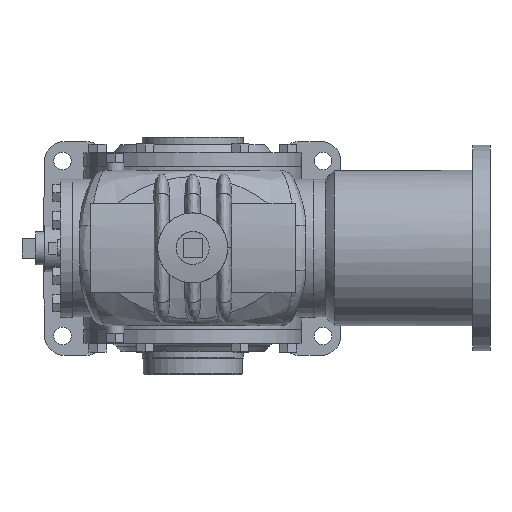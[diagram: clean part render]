
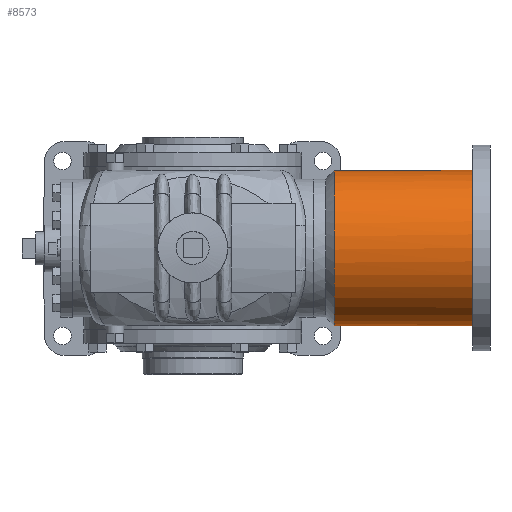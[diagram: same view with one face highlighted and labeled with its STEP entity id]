
A CAD part, top view. The second image highlights one B-rep face of the part: STEP entity #8573.
In plain terms, the highlighted cylindrical face has radius 63.5 mm (diameter 127 mm), a full revolution.
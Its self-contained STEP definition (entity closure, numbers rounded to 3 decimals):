
#424=B_SPLINE_CURVE_WITH_KNOTS('',3,(#19271,#19272,#19273,#19274,#19275,
#19276,#19277,#19278,#19279,#19280),.UNSPECIFIED.,.F.,.F.,(4,1,1,1,1,1,
1,4),(0.,0.002,0.005,0.007,0.01,
0.012,0.015,0.02),.UNSPECIFIED.);
#523=CYLINDRICAL_SURFACE('',#10833,63.5);
#1086=LINE('',#19269,#1786);
#1087=LINE('',#19282,#1787);
#1786=VECTOR('',#12601,1000.);
#1787=VECTOR('',#12602,1000.);
#3899=ORIENTED_EDGE('',*,*,#5299,.F.);
#3900=ORIENTED_EDGE('',*,*,#5300,.F.);
#3901=ORIENTED_EDGE('',*,*,#5301,.F.);
#3902=ORIENTED_EDGE('',*,*,#5185,.T.);
#3903=ORIENTED_EDGE('',*,*,#5302,.T.);
#3904=ORIENTED_EDGE('',*,*,#5179,.T.);
#3905=ORIENTED_EDGE('',*,*,#5298,.F.);
#5179=EDGE_CURVE('',#6101,#6102,#6450,.T.);
#5185=EDGE_CURVE('',#6107,#6106,#6452,.T.);
#5298=EDGE_CURVE('',#6189,#6189,#6472,.T.);
#5299=EDGE_CURVE('',#6190,#6102,#1086,.F.);
#5300=EDGE_CURVE('',#6191,#6190,#424,.T.);
#5301=EDGE_CURVE('',#6107,#6191,#1087,.T.);
#5302=EDGE_CURVE('',#6106,#6101,#6473,.T.);
#6101=VERTEX_POINT('',#18990);
#6102=VERTEX_POINT('',#18991);
#6106=VERTEX_POINT('',#19013);
#6107=VERTEX_POINT('',#19015);
#6189=VERTEX_POINT('',#19267);
#6190=VERTEX_POINT('',#19270);
#6191=VERTEX_POINT('',#19281);
#6450=CIRCLE('',#10762,63.5);
#6452=CIRCLE('',#10764,63.5);
#6472=CIRCLE('',#10832,63.5);
#6473=CIRCLE('',#10834,63.5);
#7032=EDGE_LOOP('',(#3899,#3900,#3901,#3902,#3903,#3904));
#7033=EDGE_LOOP('',(#3905));
#7705=FACE_BOUND('',#7032,.T.);
#7706=FACE_BOUND('',#7033,.T.);
#8573=ADVANCED_FACE('',(#7705,#7706),#523,.T.);
#10762=AXIS2_PLACEMENT_3D('',#18989,#12367,#12368);
#10764=AXIS2_PLACEMENT_3D('',#19014,#12371,#12372);
#10832=AXIS2_PLACEMENT_3D('',#19266,#12597,#12598);
#10833=AXIS2_PLACEMENT_3D('',#19268,#12599,#12600);
#10834=AXIS2_PLACEMENT_3D('',#19283,#12603,#12604);
#12367=DIRECTION('',(1.,0.,0.));
#12368=DIRECTION('',(0.,0.,-1.));
#12371=DIRECTION('',(1.,0.,0.));
#12372=DIRECTION('',(0.,0.,-1.));
#12597=DIRECTION('',(1.,0.,0.));
#12598=DIRECTION('',(0.,0.,-1.));
#12599=DIRECTION('',(1.,0.,0.));
#12600=DIRECTION('',(0.,0.,-1.));
#12601=DIRECTION('',(1.,0.,0.));
#12602=DIRECTION('',(1.,0.,0.));
#12603=DIRECTION('',(1.,0.,0.));
#12604=DIRECTION('',(0.,0.,-1.));
#18989=CARTESIAN_POINT('',(17.241,0.,0.));
#18990=CARTESIAN_POINT('',(17.241,-29.972,-55.982));
#18991=CARTESIAN_POINT('',(17.241,-6.35,-63.182));
#19013=CARTESIAN_POINT('',(17.241,-55.982,-29.972));
#19014=CARTESIAN_POINT('',(17.241,0.,0.));
#19015=CARTESIAN_POINT('',(17.241,6.35,-63.182));
#19266=CARTESIAN_POINT('',(130.239,0.,0.));
#19267=CARTESIAN_POINT('',(130.239,0.,-63.5));
#19268=CARTESIAN_POINT('',(98.425,0.,0.));
#19269=CARTESIAN_POINT('',(98.425,-6.35,-63.182));
#19270=CARTESIAN_POINT('',(116.777,-6.35,-63.182));
#19271=CARTESIAN_POINT('',(116.777,6.35,-63.182));
#19272=CARTESIAN_POINT('',(117.616,6.35,-63.182));
#19273=CARTESIAN_POINT('',(119.269,6.018,-63.216));
#19274=CARTESIAN_POINT('',(121.384,4.606,-63.341));
#19275=CARTESIAN_POINT('',(122.794,2.497,-63.466));
#19276=CARTESIAN_POINT('',(123.292,0.005,-63.517));
#19277=CARTESIAN_POINT('',(122.798,-2.488,-63.466));
#19278=CARTESIAN_POINT('',(120.916,-5.314,-63.298));
#19279=CARTESIAN_POINT('',(118.455,-6.35,-63.182));
#19280=CARTESIAN_POINT('',(116.777,-6.35,-63.182));
#19281=CARTESIAN_POINT('',(116.777,6.35,-63.182));
#19282=CARTESIAN_POINT('',(98.425,6.35,-63.182));
#19283=CARTESIAN_POINT('',(17.241,0.,0.));
